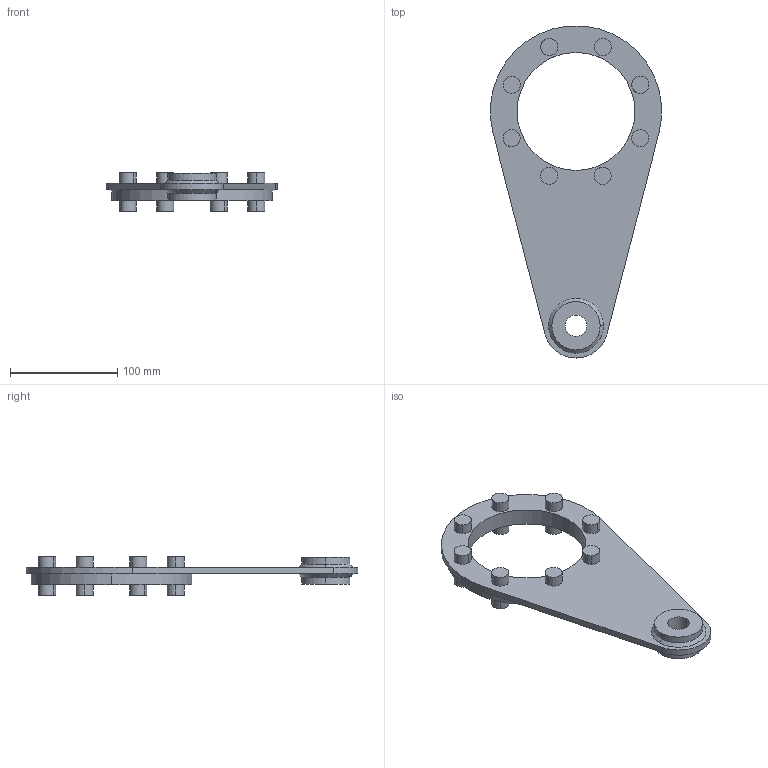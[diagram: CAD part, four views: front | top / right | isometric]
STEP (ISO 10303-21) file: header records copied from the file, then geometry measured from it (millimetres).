
FILE_DESCRIPTION(/* description */ (''),/* implementation_level */ '2;1');
FILE_NAME(/* name */ '6_BRAZZIO DI REAZIONE B083',/* time_stamp */ '2025-10-22T11:09:58+02:00',/* author */ (''),/* organization */ (''),/* preprocessor_version */ 'ST-DEVELOPER v19.2',/* originating_system */ 'Rhino 8.23',/* authorisation */ '');
FILE_SCHEMA (('CONFIG_CONTROL_DESIGN'));
Length unit declared in the file: millimetre
Products named in the file (2): Document; 083-200U-B08008_1
Bounding box: 159.5 x 309.7 x 36 mm (x, y, z)
Volume: 285499 mm3; surface area: 75299.1 mm2
Topology: 1 solids, 1 shells, 71 faces, 160 edges, 110 vertices
Faces by surface type: cylinder 44, plane 23, bspline 4
Entity records: 2465 total; most frequent: CARTESIAN_POINT 647, ORIENTED_EDGE 320, DIRECTION 287, AXIS2_PLACEMENT_3D 177, EDGE_CURVE 160, VERTEX_POINT 110, TRIMMED_CURVE 106, CIRCLE 106
